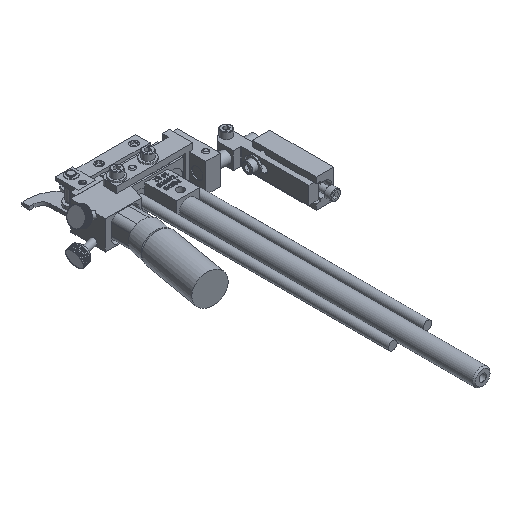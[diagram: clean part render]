
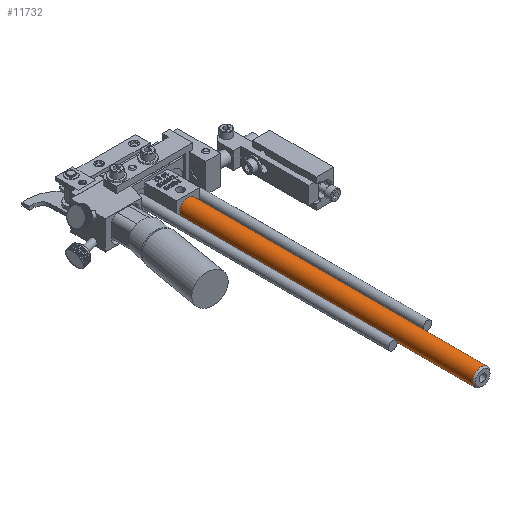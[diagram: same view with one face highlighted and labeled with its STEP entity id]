
A CAD part, isometric view. The second image highlights one B-rep face of the part: STEP entity #11732.
In plain terms, the highlighted cylindrical face has radius 4.763 mm (diameter 9.525 mm), a full revolution.
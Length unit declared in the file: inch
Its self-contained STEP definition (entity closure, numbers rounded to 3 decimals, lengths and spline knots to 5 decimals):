
#11701=CARTESIAN_POINT('',(0.44163,-7.93233,-0.0475));
#11702=VERTEX_POINT('',#11701);
#11703=CARTESIAN_POINT('',(0.44163,-7.93233,-0.235));
#11704=DIRECTION('',(0.0,-1.0,0.0));
#11705=DIRECTION('',(0.0,0.0,-1.0));
#11706=AXIS2_PLACEMENT_3D('',#11703,#11704,#11705);
#11707=CIRCLE('',#11706,0.1875);
#11708=EDGE_CURVE('',#11702,#11702,#11707,.T.);
#11713=CARTESIAN_POINT('',(0.44163,-1.58733,-0.235));
#11714=DIRECTION('',(0.,-1.0,0.));
#11715=DIRECTION('',(0.0,0.0,-1.0));
#11716=AXIS2_PLACEMENT_3D('',#11713,#11714,#11715);
#11717=CYLINDRICAL_SURFACE('',#11716,0.1875);
#11718=CARTESIAN_POINT('',(0.44163,-1.58733,-0.0475));
#11719=VERTEX_POINT('',#11718);
#11720=CARTESIAN_POINT('',(0.44163,-1.58733,-0.235));
#11721=DIRECTION('',(0.0,1.0,0.0));
#11722=DIRECTION('',(0.0,0.0,-1.0));
#11723=AXIS2_PLACEMENT_3D('',#11720,#11721,#11722);
#11724=CIRCLE('',#11723,0.1875);
#11725=EDGE_CURVE('',#11719,#11719,#11724,.T.);
#11726=ORIENTED_EDGE('',*,*,#11725,.F.);
#11727=EDGE_LOOP('',(#11726));
#11728=FACE_OUTER_BOUND('',#11727,.T.);
#11729=ORIENTED_EDGE('',*,*,#11708,.F.);
#11730=EDGE_LOOP('',(#11729));
#11731=FACE_BOUND('',#11730,.T.);
#11732=ADVANCED_FACE('',(#11728,#11731),#11717,.T.);
